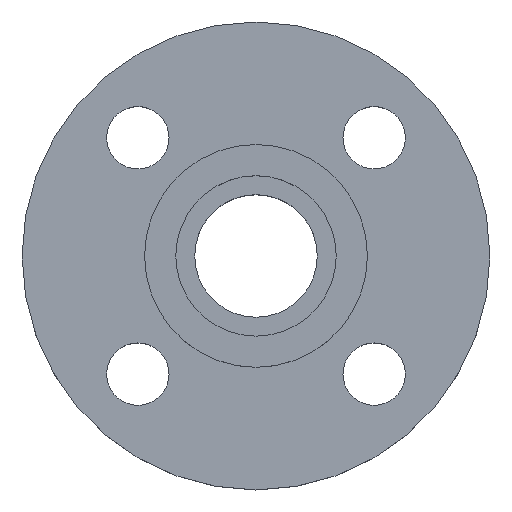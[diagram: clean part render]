
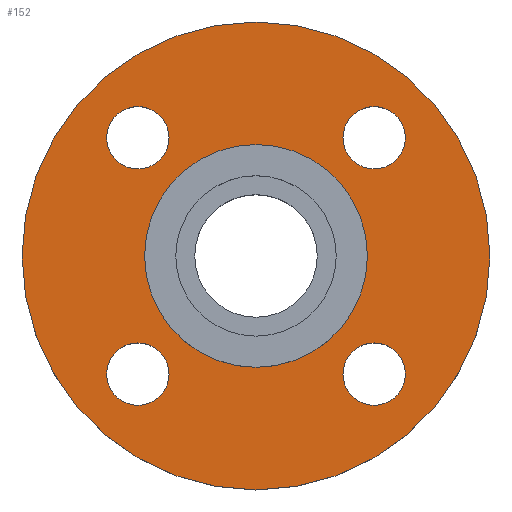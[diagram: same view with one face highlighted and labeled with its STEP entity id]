
A CAD part, top view. The second image highlights one B-rep face of the part: STEP entity #152.
In plain terms, the highlighted planar face has unit normal (0, 0, 1).
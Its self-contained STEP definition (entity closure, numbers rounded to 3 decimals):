
#22 = CIRCLE ( 'NONE', #26, 52.5 ) ;
#26 = AXIS2_PLACEMENT_3D ( 'NONE', #153, #151, #150 ) ;
#29 = CARTESIAN_POINT ( 'NONE',  ( 0., 0., -4.5 ) ) ;
#30 = CIRCLE ( 'NONE', #32, 7. ) ;
#32 = AXIS2_PLACEMENT_3D ( 'NONE', #140, #139, #137 ) ;
#34 = EDGE_CURVE ( 'NONE', #591, #614, #799, .T. ) ;
#40 = CIRCLE ( 'NONE', #42, 52.5 ) ;
#41 = AXIS2_PLACEMENT_3D ( 'NONE', #716, #717, #718 ) ;
#42 = AXIS2_PLACEMENT_3D ( 'NONE', #29, #117, #802 ) ;
#53 = CARTESIAN_POINT ( 'NONE',  ( 0., 0., -4.5 ) ) ;
#60 = DIRECTION ( 'NONE',  ( 0., 0., -1. ) ) ;
#63 = DIRECTION ( 'NONE',  ( -1., 0., 0. ) ) ;
#74 = CIRCLE ( 'NONE', #303, 7. ) ;
#85 = DIRECTION ( 'NONE',  ( 1., 0., 0. ) ) ;
#86 = DIRECTION ( 'NONE',  ( 0., 0., -1. ) ) ;
#87 = CARTESIAN_POINT ( 'NONE',  ( 26.517, -26.517, -4.5 ) ) ;
#97 = EDGE_CURVE ( 'NONE', #427, #648, #424, .T. ) ;
#117 = DIRECTION ( 'NONE',  ( 0., 0., -1. ) ) ;
#124 = CIRCLE ( 'NONE', #41, 7. ) ;
#135 = CARTESIAN_POINT ( 'NONE',  ( -33.517, -26.517, -4.5 ) ) ;
#136 = CARTESIAN_POINT ( 'NONE',  ( -26.517, 26.517, -4.5 ) ) ;
#137 = DIRECTION ( 'NONE',  ( 1., 0., 0. ) ) ;
#138 = DIRECTION ( 'NONE',  ( 0., 0., -1. ) ) ;
#139 = DIRECTION ( 'NONE',  ( 0., 0., -1. ) ) ;
#140 = CARTESIAN_POINT ( 'NONE',  ( 26.517, 26.517, -4.5 ) ) ;
#143 = DIRECTION ( 'NONE',  ( 1., 0., 0. ) ) ;
#144 = CARTESIAN_POINT ( 'NONE',  ( -19.517, -26.517, -4.5 ) ) ;
#150 = DIRECTION ( 'NONE',  ( -1., 0., 0. ) ) ;
#151 = DIRECTION ( 'NONE',  ( 0., 0., -1. ) ) ;
#152 = ADVANCED_FACE ( 'NONE', ( #700, #701, #702, #703, #704, #706 ), #707, .T. ) ;
#153 = CARTESIAN_POINT ( 'NONE',  ( 0., 0., -4.5 ) ) ;
#162 = EDGE_CURVE ( 'NONE', #396, #615, #124, .T. ) ;
#169 = CARTESIAN_POINT ( 'NONE',  ( -19.517, 26.517, -4.5 ) ) ;
#213 = CARTESIAN_POINT ( 'NONE',  ( 52.5, 0., -4.5 ) ) ;
#219 = CARTESIAN_POINT ( 'NONE',  ( 25., 0., -4.5 ) ) ;
#224 = CARTESIAN_POINT ( 'NONE',  ( -25., 0., -4.5 ) ) ;
#226 = CARTESIAN_POINT ( 'NONE',  ( -26.517, -26.517, -4.5 ) ) ;
#227 = DIRECTION ( 'NONE',  ( 1., 0., 0. ) ) ;
#229 = DIRECTION ( 'NONE',  ( 0., 0., -1. ) ) ;
#239 = CARTESIAN_POINT ( 'NONE',  ( -52.5, 0., -4.5 ) ) ;
#241 = AXIS2_PLACEMENT_3D ( 'NONE', #226, #229, #227 ) ;
#245 = CIRCLE ( 'NONE', #241, 7. ) ;
#265 = EDGE_CURVE ( 'NONE', #648, #427, #527, .T. ) ;
#268 = CIRCLE ( 'NONE', #271, 7. ) ;
#271 = AXIS2_PLACEMENT_3D ( 'NONE', #136, #138, #143 ) ;
#275 = CARTESIAN_POINT ( 'NONE',  ( 19.517, -26.517, -4.5 ) ) ;
#280 = DIRECTION ( 'NONE',  ( 1., 0., 0. ) ) ;
#283 = DIRECTION ( 'NONE',  ( 0., 0., -1. ) ) ;
#284 = CARTESIAN_POINT ( 'NONE',  ( 26.517, -26.517, -4.5 ) ) ;
#291 = EDGE_CURVE ( 'NONE', #631, #644, #74, .T. ) ;
#301 = CIRCLE ( 'NONE', #337, 7. ) ;
#303 = AXIS2_PLACEMENT_3D ( 'NONE', #87, #86, #85 ) ;
#309 = DIRECTION ( 'NONE',  ( 0., 0., -1. ) ) ;
#325 = CIRCLE ( 'NONE', #331, 7. ) ;
#330 = AXIS2_PLACEMENT_3D ( 'NONE', #708, #709, #710 ) ;
#331 = AXIS2_PLACEMENT_3D ( 'NONE', #443, #309, #501 ) ;
#337 = AXIS2_PLACEMENT_3D ( 'NONE', #284, #283, #280 ) ;
#341 = VERTEX_POINT ( 'NONE', #135 ) ;
#342 = EDGE_LOOP ( 'NONE', ( #515, #517 ) ) ;
#343 = EDGE_CURVE ( 'NONE', #615, #396, #268, .T. ) ;
#344 = VERTEX_POINT ( 'NONE', #144 ) ;
#359 = CARTESIAN_POINT ( 'NONE',  ( 33.517, -26.517, -4.5 ) ) ;
#362 = EDGE_LOOP ( 'NONE', ( #513, #514 ) ) ;
#396 = VERTEX_POINT ( 'NONE', #169 ) ;
#399 = AXIS2_PLACEMENT_3D ( 'NONE', #662, #663, #665 ) ;
#402 = AXIS2_PLACEMENT_3D ( 'NONE', #677, #678, #679 ) ;
#424 = CIRCLE ( 'NONE', #402, 25. ) ;
#426 = EDGE_LOOP ( 'NONE', ( #518, #519 ) ) ;
#427 = VERTEX_POINT ( 'NONE', #224 ) ;
#435 = EDGE_CURVE ( 'NONE', #341, #344, #245, .T. ) ;
#437 = VERTEX_POINT ( 'NONE', #239 ) ;
#440 = EDGE_LOOP ( 'NONE', ( #503, #507 ) ) ;
#443 = CARTESIAN_POINT ( 'NONE',  ( -26.517, -26.517, -4.5 ) ) ;
#448 = AXIS2_PLACEMENT_3D ( 'NONE', #53, #60, #63 ) ;
#478 = EDGE_LOOP ( 'NONE', ( #508, #510 ) ) ;
#482 = CARTESIAN_POINT ( 'NONE',  ( 19.517, 26.517, -4.5 ) ) ;
#485 = CARTESIAN_POINT ( 'NONE',  ( 33.517, 26.517, -4.5 ) ) ;
#495 = CARTESIAN_POINT ( 'NONE',  ( -33.517, 26.517, -4.5 ) ) ;
#499 = ORIENTED_EDGE ( 'NONE', *, *, #291, .T. ) ;
#500 = ORIENTED_EDGE ( 'NONE', *, *, #640, .T. ) ;
#501 = DIRECTION ( 'NONE',  ( 1., 0., 0. ) ) ;
#503 = ORIENTED_EDGE ( 'NONE', *, *, #558, .T. ) ;
#507 = ORIENTED_EDGE ( 'NONE', *, *, #435, .T. ) ;
#508 = ORIENTED_EDGE ( 'NONE', *, *, #162, .T. ) ;
#510 = ORIENTED_EDGE ( 'NONE', *, *, #343, .T. ) ;
#513 = ORIENTED_EDGE ( 'NONE', *, *, #34, .T. ) ;
#514 = ORIENTED_EDGE ( 'NONE', *, *, #743, .T. ) ;
#515 = ORIENTED_EDGE ( 'NONE', *, *, #97, .T. ) ;
#517 = ORIENTED_EDGE ( 'NONE', *, *, #265, .T. ) ;
#518 = ORIENTED_EDGE ( 'NONE', *, *, #740, .F. ) ;
#519 = ORIENTED_EDGE ( 'NONE', *, *, #774, .F. ) ;
#527 = CIRCLE ( 'NONE', #448, 25. ) ;
#558 = EDGE_CURVE ( 'NONE', #344, #341, #325, .T. ) ;
#591 = VERTEX_POINT ( 'NONE', #485 ) ;
#614 = VERTEX_POINT ( 'NONE', #482 ) ;
#615 = VERTEX_POINT ( 'NONE', #495 ) ;
#631 = VERTEX_POINT ( 'NONE', #359 ) ;
#639 = EDGE_LOOP ( 'NONE', ( #499, #500 ) ) ;
#640 = EDGE_CURVE ( 'NONE', #644, #631, #301, .T. ) ;
#644 = VERTEX_POINT ( 'NONE', #275 ) ;
#648 = VERTEX_POINT ( 'NONE', #219 ) ;
#652 = VERTEX_POINT ( 'NONE', #213 ) ;
#662 = CARTESIAN_POINT ( 'NONE',  ( 26.517, 26.517, -4.5 ) ) ;
#663 = DIRECTION ( 'NONE',  ( 0., 0., -1. ) ) ;
#665 = DIRECTION ( 'NONE',  ( 1., 0., 0. ) ) ;
#677 = CARTESIAN_POINT ( 'NONE',  ( 0., 0., -4.5 ) ) ;
#678 = DIRECTION ( 'NONE',  ( 0., 0., -1. ) ) ;
#679 = DIRECTION ( 'NONE',  ( -1., 0., 0. ) ) ;
#700 = FACE_BOUND ( 'NONE', #639, .T. ) ;
#701 = FACE_BOUND ( 'NONE', #440, .T. ) ;
#702 = FACE_BOUND ( 'NONE', #478, .T. ) ;
#703 = FACE_BOUND ( 'NONE', #362, .T. ) ;
#704 = FACE_BOUND ( 'NONE', #342, .T. ) ;
#706 = FACE_OUTER_BOUND ( 'NONE', #426, .T. ) ;
#707 = PLANE ( 'NONE',  #330 ) ;
#708 = CARTESIAN_POINT ( 'NONE',  ( 25., 0., -4.5 ) ) ;
#709 = DIRECTION ( 'NONE',  ( 0., 0., 1. ) ) ;
#710 = DIRECTION ( 'NONE',  ( 1., 0., 0. ) ) ;
#716 = CARTESIAN_POINT ( 'NONE',  ( -26.517, 26.517, -4.5 ) ) ;
#717 = DIRECTION ( 'NONE',  ( 0., 0., -1. ) ) ;
#718 = DIRECTION ( 'NONE',  ( 1., 0., 0. ) ) ;
#740 = EDGE_CURVE ( 'NONE', #652, #437, #22, .T. ) ;
#743 = EDGE_CURVE ( 'NONE', #614, #591, #30, .T. ) ;
#774 = EDGE_CURVE ( 'NONE', #437, #652, #40, .T. ) ;
#799 = CIRCLE ( 'NONE', #399, 7. ) ;
#802 = DIRECTION ( 'NONE',  ( -1., 0., 0. ) ) ;
